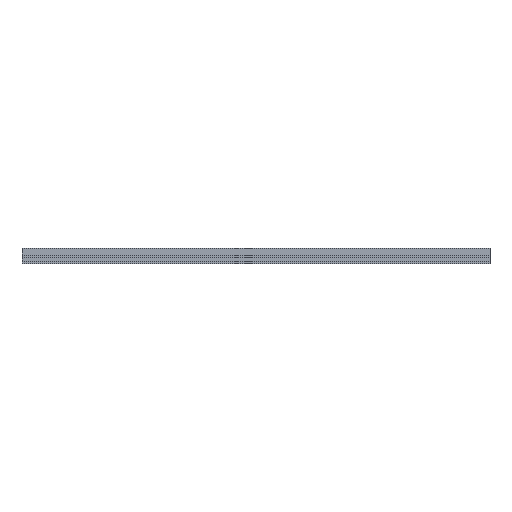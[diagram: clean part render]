
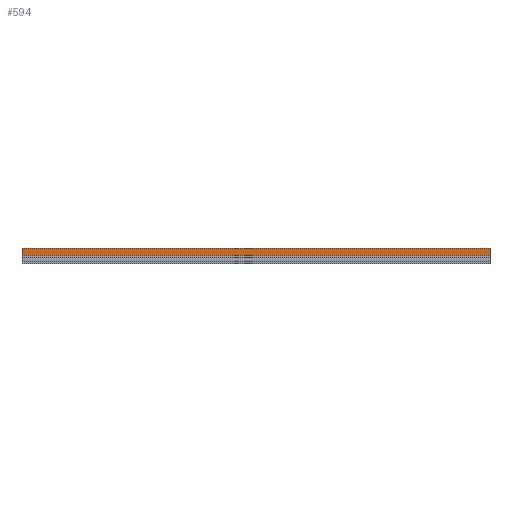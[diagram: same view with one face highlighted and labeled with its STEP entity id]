
A CAD part, front view. The second image highlights one B-rep face of the part: STEP entity #594.
In plain terms, the highlighted planar face has unit normal (0, -1, 0).
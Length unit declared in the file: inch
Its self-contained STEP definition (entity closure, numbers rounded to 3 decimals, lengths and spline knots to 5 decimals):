
#62=FACE_OUTER_BOUND('',#94,.T.);
#94=EDGE_LOOP('',(#473,#474,#475,#476));
#152=LINE('',#959,#220);
#153=LINE('',#962,#221);
#154=LINE('',#964,#222);
#155=LINE('',#965,#223);
#220=VECTOR('',#785,0.3937);
#221=VECTOR('',#788,0.3937);
#222=VECTOR('',#789,0.3937);
#223=VECTOR('',#790,0.3937);
#279=VERTEX_POINT('',#955);
#280=VERTEX_POINT('',#957);
#281=VERTEX_POINT('',#961);
#282=VERTEX_POINT('',#963);
#354=EDGE_CURVE('',#279,#280,#152,.T.);
#355=EDGE_CURVE('',#281,#279,#153,.T.);
#356=EDGE_CURVE('',#282,#280,#154,.T.);
#357=EDGE_CURVE('',#281,#282,#155,.T.);
#473=ORIENTED_EDGE('',*,*,#355,.T.);
#474=ORIENTED_EDGE('',*,*,#354,.T.);
#475=ORIENTED_EDGE('',*,*,#356,.F.);
#476=ORIENTED_EDGE('',*,*,#357,.F.);
#565=PLANE('',#657);
#594=ADVANCED_FACE('',(#62),#565,.T.);
#657=AXIS2_PLACEMENT_3D('',#960,#786,#787);
#785=DIRECTION('',(1.,0.,0.));
#786=DIRECTION('center_axis',(0.,-1.,0.));
#787=DIRECTION('ref_axis',(0.,0.,-1.));
#788=DIRECTION('',(0.,0.,-1.));
#789=DIRECTION('',(0.,0.,-1.));
#790=DIRECTION('',(1.,0.,0.));
#955=CARTESIAN_POINT('',(0.,-0.07621,-1.635));
#957=CARTESIAN_POINT('',(120.,-0.07621,-1.635));
#959=CARTESIAN_POINT('',(0.,-0.07621,-1.635));
#960=CARTESIAN_POINT('Origin',(0.,-0.07621,0.15814));
#961=CARTESIAN_POINT('',(0.,-0.07621,0.15814));
#962=CARTESIAN_POINT('',(0.,-0.07621,0.15814));
#963=CARTESIAN_POINT('',(120.,-0.07621,0.15814));
#964=CARTESIAN_POINT('',(120.,-0.07621,0.15814));
#965=CARTESIAN_POINT('',(0.,-0.07621,0.15814));
